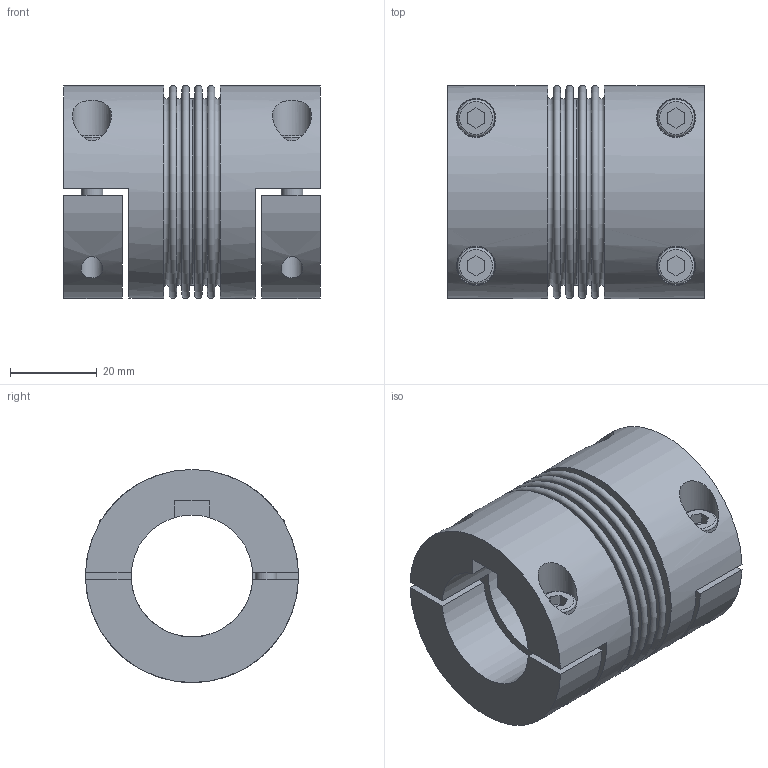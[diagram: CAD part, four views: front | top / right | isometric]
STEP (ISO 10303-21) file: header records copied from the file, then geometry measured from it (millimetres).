
FILE_DESCRIPTION(/* description */ ('STEP AP214'),/* implementation_level */ '2;1');
FILE_NAME(/* name */ 'C:\Diequa Files\DieQua Coupling\BCS\STP\BCS.15.59.#.#.stp',/* time_stamp */ '2018-11-15T09:03:41-06:00',/* author */ ('DiequaCAD'),/* organization */ (''),/* preprocessor_version */ 'ST-DEVELOPER v17.2',/* originating_system */ 'Autodesk Inventor 2019',/* authorisation */ ' ');
FILE_SCHEMA (('AUTOMOTIVE_DESIGN { 1 0 10303 214 3 1 1 }'));
Length unit declared in the file: millimetre
Products named in the file (1): BKH_15_59_28_PFN_28_PFN_1
Bounding box: 59 x 49 x 49 mm (x, y, z)
Volume: 66225.3 mm3; surface area: 25709.9 mm2
Topology: 1 solids, 1 shells, 109 faces, 255 edges, 176 vertices
Faces by surface type: plane 74, cylinder 21, torus 14
Full cylindrical faces by diameter (mm): 5 x6, 8.5 x4, 9 x4, 28 x1, 49 x2
Entity records: 3505 total; most frequent: CARTESIAN_POINT 841, DIRECTION 565, ORIENTED_EDGE 510, EDGE_CURVE 255, AXIS2_PLACEMENT_3D 212, VERTEX_POINT 176, LINE 141, VECTOR 141
